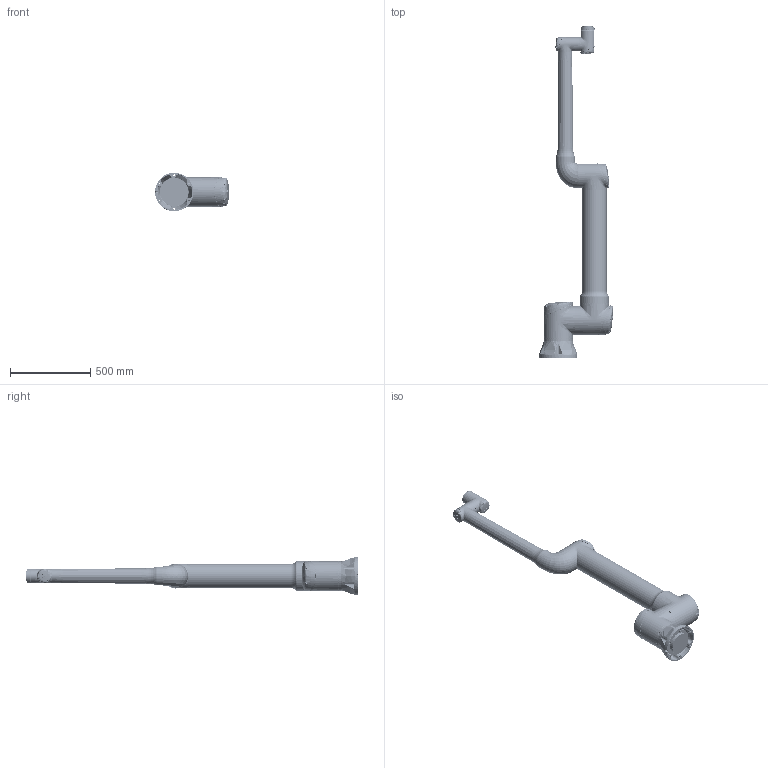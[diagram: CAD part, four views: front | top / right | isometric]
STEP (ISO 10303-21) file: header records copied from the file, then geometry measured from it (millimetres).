
FILE_DESCRIPTION (( 'STEP AP203' ), '1' );
FILE_NAME ('CS_掛极CS525H_V1.1.STEP', '2025-05-10T08:50:41', ( '' ), ( '' ), 'SwSTEP 2.0', 'SolidWorks 2017', '' );
FILE_SCHEMA (( 'CONFIG_CONTROL_DESIGN' ));
Products named in the file (7): CS525H-Flange; CS525H-Link3; CS525H-Link2; CS525H-Link4; CS525H-Link1; CS_掛极CS525H_V1.1; CS525H-Base
Assembly tree (6 placements, depth 2):
  CS_掛极CS525H_V1.1
    CS525H-Base
    CS525H-Link1
    CS525H-Link2
    CS525H-Link3
    CS525H-Link4
    CS525H-Flange
Bounding box: 460.8 x 2068.3 x 239.8 mm (x, y, z)
Volume: 37146934.8 mm3; surface area: 2329819.9 mm2
Topology: 51 solids, 146 shells, 8664 faces, 20676 edges, 12235 vertices
Faces by surface type: bspline 3299, plane 1847, cylinder 1551, cone 1127, torus 621, sphere 219
Entity records: 504194 total; most frequent: CARTESIAN_POINT 330996, ORIENTED_EDGE 40612, DIRECTION 29941, EDGE_CURVE 20308, AXIS2_PLACEMENT_3D 12795, VERTEX_POINT 12211, EDGE_LOOP 9120, FACE_OUTER_BOUND 8664
